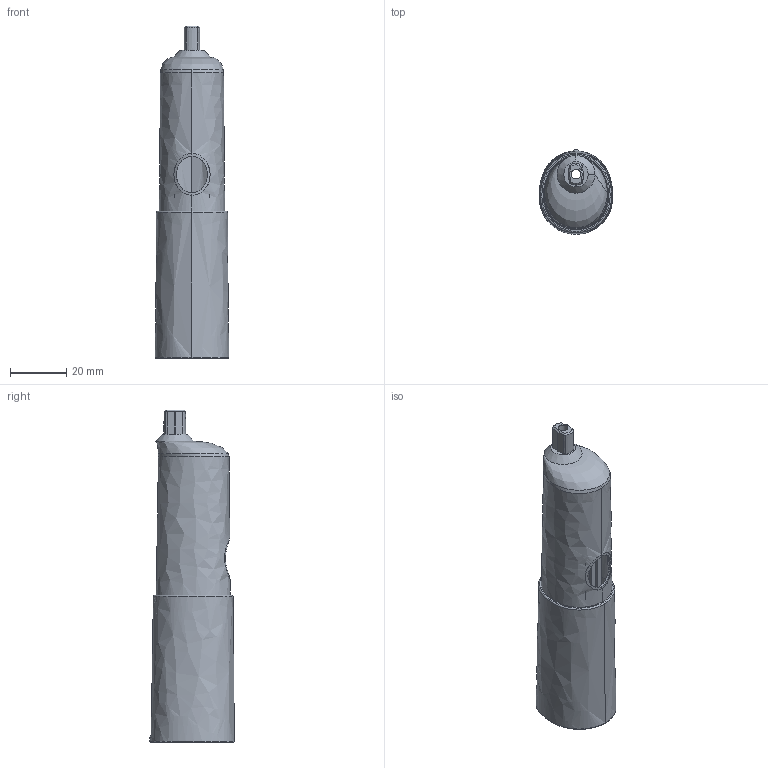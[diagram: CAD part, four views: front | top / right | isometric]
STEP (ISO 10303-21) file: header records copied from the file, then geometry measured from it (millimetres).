
FILE_DESCRIPTION(('Open CASCADE Model'),'2;1');
FILE_NAME('Open CASCADE Shape Model','2026-10-16T06:30:22',('Author'),( 'Open CASCADE'),'Open CASCADE STEP processor 7.8','Open CASCADE 7.8' ,'Unknown');
FILE_SCHEMA(('AUTOMOTIVE_DESIGN { 1 0 10303 214 1 1 1 1 }'));
Length unit declared in the file: millimetre
Products named in the file (2): HL188_rounded_hard_shell; Hard_shell
Assembly tree (1 placements, depth 2):
  HL188_rounded_hard_shell
    Hard_shell
Bounding box: 26.06 x 29.99 x 117.6 mm (x, y, z)
Volume: 12998.3 mm3; surface area: 18211.9 mm2
Topology: 1 solids, 1 shells, 182 faces, 467 edges, 288 vertices
Faces by surface type: bspline 89, plane 48, cone 16, cylinder 15, torus 14
Full cylindrical faces by diameter (mm): 3.4 x1, 8 x1
Entity records: 22947 total; most frequent: CARTESIAN_POINT 15249, ORIENTED_EDGE 926, PCURVE 926, DEFINITIONAL_REPRESENTATION 926, DIRECTION 904, B_SPLINE_CURVE_WITH_KNOTS 705, LINE 529, VECTOR 529
